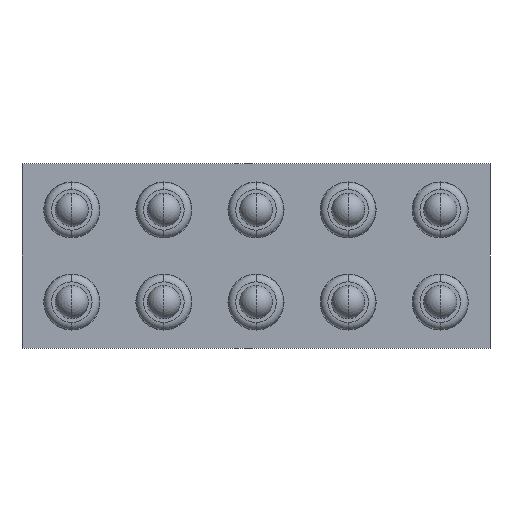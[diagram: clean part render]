
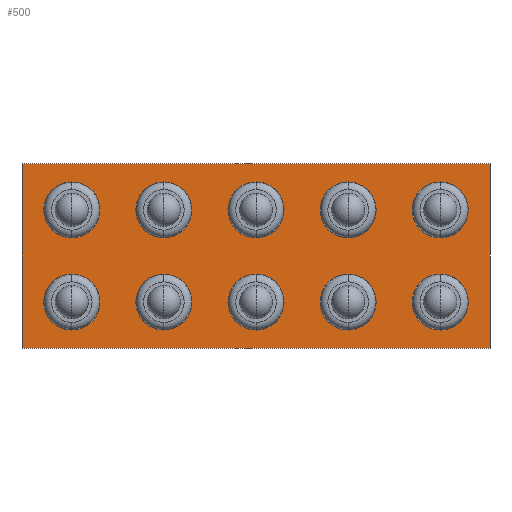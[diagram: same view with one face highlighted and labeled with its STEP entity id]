
A CAD part, left-side view. The second image highlights one B-rep face of the part: STEP entity #500.
In plain terms, the highlighted planar face has unit normal (-1, 0, 0).
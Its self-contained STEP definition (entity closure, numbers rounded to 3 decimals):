
#1=CARTESIAN_POINT('',(0.,5.,1.25));
#2=DIRECTION('',(-1.,0.,0.));
#3=DIRECTION('',(0.,-1.,0.));
#4=AXIS2_PLACEMENT_3D('',#1,#2,#3);
#6=CARTESIAN_POINT('',(0.,5.,1.25));
#7=DIRECTION('',(-1.,0.,0.));
#8=DIRECTION('',(0.,1.,0.));
#9=AXIS2_PLACEMENT_3D('',#6,#7,#8);
#11=CARTESIAN_POINT('',(0.,5.,-1.25));
#12=DIRECTION('',(-1.,0.,0.));
#13=DIRECTION('',(0.,-1.,0.));
#14=AXIS2_PLACEMENT_3D('',#11,#12,#13);
#16=CARTESIAN_POINT('',(0.,5.,-1.25));
#17=DIRECTION('',(-1.,0.,0.));
#18=DIRECTION('',(0.,1.,0.));
#19=AXIS2_PLACEMENT_3D('',#16,#17,#18);
#21=CARTESIAN_POINT('',(0.,2.5,1.25));
#22=DIRECTION('',(-1.,0.,0.));
#23=DIRECTION('',(0.,-1.,0.));
#24=AXIS2_PLACEMENT_3D('',#21,#22,#23);
#26=CARTESIAN_POINT('',(0.,2.5,1.25));
#27=DIRECTION('',(-1.,0.,0.));
#28=DIRECTION('',(0.,1.,0.));
#29=AXIS2_PLACEMENT_3D('',#26,#27,#28);
#31=CARTESIAN_POINT('',(0.,2.5,-1.25));
#32=DIRECTION('',(-1.,0.,0.));
#33=DIRECTION('',(0.,-1.,0.));
#34=AXIS2_PLACEMENT_3D('',#31,#32,#33);
#36=CARTESIAN_POINT('',(0.,2.5,-1.25));
#37=DIRECTION('',(-1.,0.,0.));
#38=DIRECTION('',(0.,1.,0.));
#39=AXIS2_PLACEMENT_3D('',#36,#37,#38);
#41=CARTESIAN_POINT('',(0.,0.,1.25));
#42=DIRECTION('',(-1.,0.,0.));
#43=DIRECTION('',(0.,-1.,0.));
#44=AXIS2_PLACEMENT_3D('',#41,#42,#43);
#46=CARTESIAN_POINT('',(0.,0.,1.25));
#47=DIRECTION('',(-1.,0.,0.));
#48=DIRECTION('',(0.,1.,0.));
#49=AXIS2_PLACEMENT_3D('',#46,#47,#48);
#51=CARTESIAN_POINT('',(0.,0.,-1.25));
#52=DIRECTION('',(-1.,0.,0.));
#53=DIRECTION('',(0.,-1.,0.));
#54=AXIS2_PLACEMENT_3D('',#51,#52,#53);
#56=CARTESIAN_POINT('',(0.,0.,-1.25));
#57=DIRECTION('',(-1.,0.,0.));
#58=DIRECTION('',(0.,1.,0.));
#59=AXIS2_PLACEMENT_3D('',#56,#57,#58);
#61=CARTESIAN_POINT('',(0.,-2.5,1.25));
#62=DIRECTION('',(-1.,0.,0.));
#63=DIRECTION('',(0.,-1.,0.));
#64=AXIS2_PLACEMENT_3D('',#61,#62,#63);
#66=CARTESIAN_POINT('',(0.,-2.5,1.25));
#67=DIRECTION('',(-1.,0.,0.));
#68=DIRECTION('',(0.,1.,0.));
#69=AXIS2_PLACEMENT_3D('',#66,#67,#68);
#71=CARTESIAN_POINT('',(0.,-2.5,-1.25));
#72=DIRECTION('',(-1.,0.,0.));
#73=DIRECTION('',(0.,-1.,0.));
#74=AXIS2_PLACEMENT_3D('',#71,#72,#73);
#76=CARTESIAN_POINT('',(0.,-2.5,-1.25));
#77=DIRECTION('',(-1.,0.,0.));
#78=DIRECTION('',(0.,1.,0.));
#79=AXIS2_PLACEMENT_3D('',#76,#77,#78);
#81=CARTESIAN_POINT('',(0.,-5.,1.25));
#82=DIRECTION('',(-1.,0.,0.));
#83=DIRECTION('',(0.,-1.,0.));
#84=AXIS2_PLACEMENT_3D('',#81,#82,#83);
#86=CARTESIAN_POINT('',(0.,-5.,1.25));
#87=DIRECTION('',(-1.,0.,0.));
#88=DIRECTION('',(0.,1.,0.));
#89=AXIS2_PLACEMENT_3D('',#86,#87,#88);
#91=CARTESIAN_POINT('',(0.,-5.,-1.25));
#92=DIRECTION('',(-1.,0.,0.));
#93=DIRECTION('',(0.,-1.,0.));
#94=AXIS2_PLACEMENT_3D('',#91,#92,#93);
#96=CARTESIAN_POINT('',(0.,-5.,-1.25));
#97=DIRECTION('',(-1.,0.,0.));
#98=DIRECTION('',(0.,1.,0.));
#99=AXIS2_PLACEMENT_3D('',#96,#97,#98);
#101=DIRECTION('',(0.,-1.,0.));
#102=VECTOR('',#101,12.7);
#103=CARTESIAN_POINT('',(0.,6.35,2.5));
#104=LINE('',#103,#102);
#105=DIRECTION('',(0.,0.,-1.));
#106=VECTOR('',#105,5.);
#107=CARTESIAN_POINT('',(0.,-6.35,2.5));
#108=LINE('',#107,#106);
#109=DIRECTION('',(0.,1.,0.));
#110=VECTOR('',#109,12.7);
#111=CARTESIAN_POINT('',(0.,-6.35,-2.5));
#112=LINE('',#111,#110);
#113=DIRECTION('',(0.,0.,1.));
#114=VECTOR('',#113,5.);
#115=CARTESIAN_POINT('',(0.,6.35,-2.5));
#116=LINE('',#115,#114);
#329=CARTESIAN_POINT('',(0.,4.24,1.25));
#330=CARTESIAN_POINT('',(0.,5.76,1.25));
#331=VERTEX_POINT('',#329);
#332=VERTEX_POINT('',#330);
#333=CARTESIAN_POINT('',(0.,4.24,-1.25));
#334=CARTESIAN_POINT('',(0.,5.76,-1.25));
#335=VERTEX_POINT('',#333);
#336=VERTEX_POINT('',#334);
#337=CARTESIAN_POINT('',(0.,1.74,1.25));
#338=CARTESIAN_POINT('',(0.,3.26,1.25));
#339=VERTEX_POINT('',#337);
#340=VERTEX_POINT('',#338);
#341=CARTESIAN_POINT('',(0.,1.74,-1.25));
#342=CARTESIAN_POINT('',(0.,3.26,-1.25));
#343=VERTEX_POINT('',#341);
#344=VERTEX_POINT('',#342);
#345=CARTESIAN_POINT('',(0.,-0.76,1.25));
#346=CARTESIAN_POINT('',(0.,0.76,1.25));
#347=VERTEX_POINT('',#345);
#348=VERTEX_POINT('',#346);
#349=CARTESIAN_POINT('',(0.,-0.76,-1.25));
#350=CARTESIAN_POINT('',(0.,0.76,-1.25));
#351=VERTEX_POINT('',#349);
#352=VERTEX_POINT('',#350);
#353=CARTESIAN_POINT('',(0.,-3.26,1.25));
#354=CARTESIAN_POINT('',(0.,-1.74,1.25));
#355=VERTEX_POINT('',#353);
#356=VERTEX_POINT('',#354);
#357=CARTESIAN_POINT('',(0.,-3.26,-1.25));
#358=CARTESIAN_POINT('',(0.,-1.74,-1.25));
#359=VERTEX_POINT('',#357);
#360=VERTEX_POINT('',#358);
#361=CARTESIAN_POINT('',(0.,-5.76,1.25));
#362=CARTESIAN_POINT('',(0.,-4.24,1.25));
#363=VERTEX_POINT('',#361);
#364=VERTEX_POINT('',#362);
#365=CARTESIAN_POINT('',(0.,-5.76,-1.25));
#366=CARTESIAN_POINT('',(0.,-4.24,-1.25));
#367=VERTEX_POINT('',#365);
#368=VERTEX_POINT('',#366);
#369=CARTESIAN_POINT('',(0.,6.35,2.5));
#370=CARTESIAN_POINT('',(0.,-6.35,2.5));
#371=VERTEX_POINT('',#369);
#372=VERTEX_POINT('',#370);
#373=CARTESIAN_POINT('',(0.,-6.35,-2.5));
#374=VERTEX_POINT('',#373);
#375=CARTESIAN_POINT('',(0.,6.35,-2.5));
#376=VERTEX_POINT('',#375);
#425=CARTESIAN_POINT('',(0.,0.,0.));
#426=DIRECTION('',(1.,0.,0.));
#427=DIRECTION('',(0.,-1.,0.));
#428=AXIS2_PLACEMENT_3D('',#425,#426,#427);
#429=PLANE('',#428);
#431=ORIENTED_EDGE('',*,*,#430,.T.);
#433=ORIENTED_EDGE('',*,*,#432,.T.);
#435=ORIENTED_EDGE('',*,*,#434,.T.);
#437=ORIENTED_EDGE('',*,*,#436,.T.);
#438=EDGE_LOOP('',(#431,#433,#435,#437));
#439=FACE_OUTER_BOUND('',#438,.F.);
#441=ORIENTED_EDGE('',*,*,#440,.T.);
#443=ORIENTED_EDGE('',*,*,#442,.T.);
#444=EDGE_LOOP('',(#441,#443));
#445=FACE_BOUND('',#444,.F.);
#447=ORIENTED_EDGE('',*,*,#446,.T.);
#449=ORIENTED_EDGE('',*,*,#448,.T.);
#450=EDGE_LOOP('',(#447,#449));
#451=FACE_BOUND('',#450,.F.);
#453=ORIENTED_EDGE('',*,*,#452,.T.);
#455=ORIENTED_EDGE('',*,*,#454,.T.);
#456=EDGE_LOOP('',(#453,#455));
#457=FACE_BOUND('',#456,.F.);
#459=ORIENTED_EDGE('',*,*,#458,.T.);
#461=ORIENTED_EDGE('',*,*,#460,.T.);
#462=EDGE_LOOP('',(#459,#461));
#463=FACE_BOUND('',#462,.F.);
#465=ORIENTED_EDGE('',*,*,#464,.T.);
#467=ORIENTED_EDGE('',*,*,#466,.T.);
#468=EDGE_LOOP('',(#465,#467));
#469=FACE_BOUND('',#468,.F.);
#471=ORIENTED_EDGE('',*,*,#470,.T.);
#473=ORIENTED_EDGE('',*,*,#472,.T.);
#474=EDGE_LOOP('',(#471,#473));
#475=FACE_BOUND('',#474,.F.);
#477=ORIENTED_EDGE('',*,*,#476,.T.);
#479=ORIENTED_EDGE('',*,*,#478,.T.);
#480=EDGE_LOOP('',(#477,#479));
#481=FACE_BOUND('',#480,.F.);
#483=ORIENTED_EDGE('',*,*,#482,.T.);
#485=ORIENTED_EDGE('',*,*,#484,.T.);
#486=EDGE_LOOP('',(#483,#485));
#487=FACE_BOUND('',#486,.F.);
#489=ORIENTED_EDGE('',*,*,#488,.T.);
#491=ORIENTED_EDGE('',*,*,#490,.T.);
#492=EDGE_LOOP('',(#489,#491));
#493=FACE_BOUND('',#492,.F.);
#495=ORIENTED_EDGE('',*,*,#494,.T.);
#497=ORIENTED_EDGE('',*,*,#496,.T.);
#498=EDGE_LOOP('',(#495,#497));
#499=FACE_BOUND('',#498,.F.);
#500=ADVANCED_FACE('',(#439,#445,#451,#457,#463,#469,#475,#481,#487,#493,#499),
#429,.F.);
#5=CIRCLE('',#4,0.76);
#10=CIRCLE('',#9,0.76);
#15=CIRCLE('',#14,0.76);
#20=CIRCLE('',#19,0.76);
#25=CIRCLE('',#24,0.76);
#30=CIRCLE('',#29,0.76);
#35=CIRCLE('',#34,0.76);
#40=CIRCLE('',#39,0.76);
#45=CIRCLE('',#44,0.76);
#50=CIRCLE('',#49,0.76);
#55=CIRCLE('',#54,0.76);
#60=CIRCLE('',#59,0.76);
#65=CIRCLE('',#64,0.76);
#70=CIRCLE('',#69,0.76);
#75=CIRCLE('',#74,0.76);
#80=CIRCLE('',#79,0.76);
#85=CIRCLE('',#84,0.76);
#90=CIRCLE('',#89,0.76);
#95=CIRCLE('',#94,0.76);
#100=CIRCLE('',#99,0.76);
#430=EDGE_CURVE('',#371,#372,#104,.T.);
#432=EDGE_CURVE('',#372,#374,#108,.T.);
#434=EDGE_CURVE('',#374,#376,#112,.T.);
#436=EDGE_CURVE('',#376,#371,#116,.T.);
#440=EDGE_CURVE('',#335,#336,#15,.T.);
#442=EDGE_CURVE('',#336,#335,#20,.T.);
#446=EDGE_CURVE('',#339,#340,#25,.T.);
#448=EDGE_CURVE('',#340,#339,#30,.T.);
#452=EDGE_CURVE('',#343,#344,#35,.T.);
#454=EDGE_CURVE('',#344,#343,#40,.T.);
#458=EDGE_CURVE('',#347,#348,#45,.T.);
#460=EDGE_CURVE('',#348,#347,#50,.T.);
#464=EDGE_CURVE('',#351,#352,#55,.T.);
#466=EDGE_CURVE('',#352,#351,#60,.T.);
#470=EDGE_CURVE('',#355,#356,#65,.T.);
#472=EDGE_CURVE('',#356,#355,#70,.T.);
#476=EDGE_CURVE('',#359,#360,#75,.T.);
#478=EDGE_CURVE('',#360,#359,#80,.T.);
#482=EDGE_CURVE('',#363,#364,#85,.T.);
#484=EDGE_CURVE('',#364,#363,#90,.T.);
#488=EDGE_CURVE('',#367,#368,#95,.T.);
#490=EDGE_CURVE('',#368,#367,#100,.T.);
#494=EDGE_CURVE('',#331,#332,#5,.T.);
#496=EDGE_CURVE('',#332,#331,#10,.T.);
